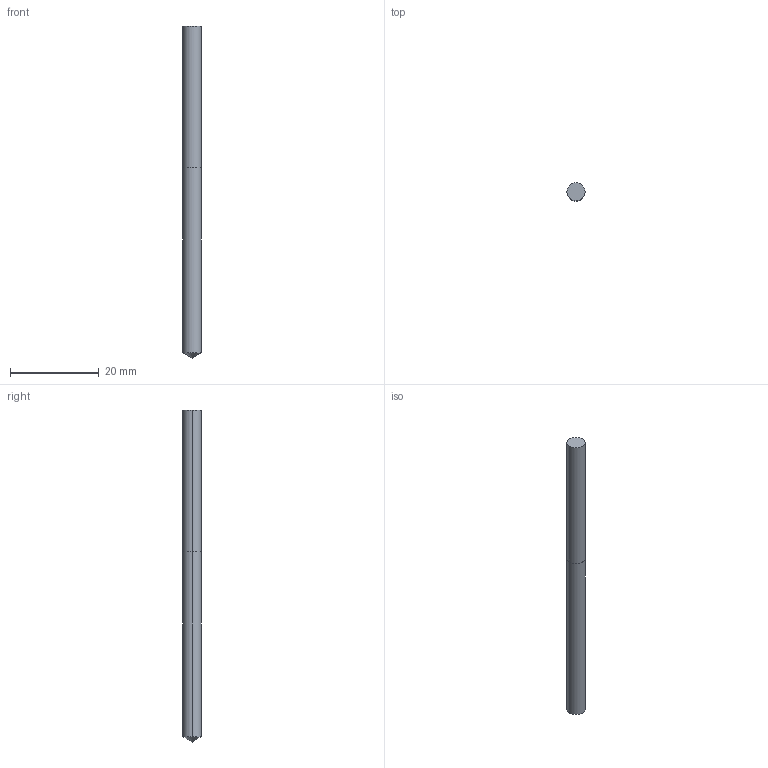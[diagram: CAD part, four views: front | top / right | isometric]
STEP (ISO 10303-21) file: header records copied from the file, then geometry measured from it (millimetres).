
FILE_DESCRIPTION(('STEP AP214'),'1');
FILE_NAME('cctmp_78A10AAA-6160-4D5F-8645-1BE2D407C9A2_2020_10_01_09_07_45_0017..stp','2020-10-01T07:07:45',('Meusburger Georg GmbH & Co KG'),('CADClick - www.CADClick.com'),'Spatial InterOp 3D',' ','unknown authorization');
FILE_SCHEMA(('AUTOMOTIVE_DESIGN { 1 0 10303 214 1 1 1 1 }'));
Length unit declared in the file: millimetre
Products named in the file (1): WZB30213_4.1
Bounding box: 4.1 x 4.1 x 75 mm (x, y, z)
Volume: 979.3 mm3; surface area: 979 mm2
Topology: 1 solids, 1 shells, 11 faces, 22 edges, 13 vertices
Faces by surface type: cylinder 6, plane 3, cone 2
Entity records: 390 total; most frequent: DIRECTION 56, CARTESIAN_POINT 45, ORIENTED_EDGE 40, AXIS2_PLACEMENT_3D 24, EDGE_CURVE 20, EDGE_LOOP 13, VERTEX_POINT 13, STYLED_ITEM 12
